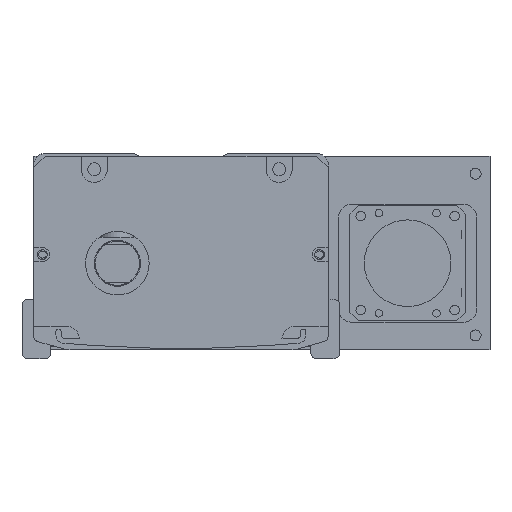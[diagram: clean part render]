
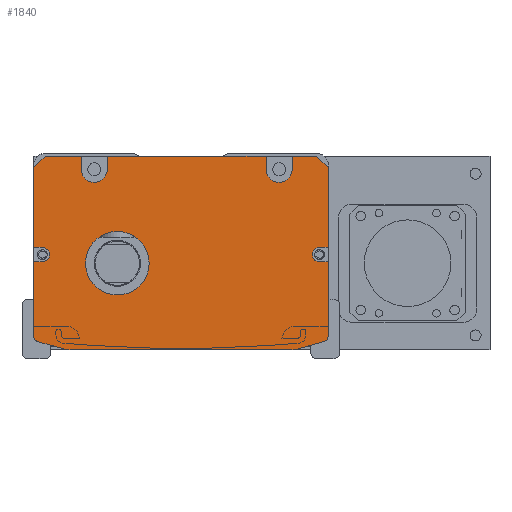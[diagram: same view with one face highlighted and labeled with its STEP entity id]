
A CAD part, front view. The second image highlights one B-rep face of the part: STEP entity #1840.
In plain terms, the highlighted planar face has unit normal (0, -1, 0).
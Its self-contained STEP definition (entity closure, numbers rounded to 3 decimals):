
#1840=ADVANCED_FACE('',(#4408,#4409),#2389,.F.);
#2389=PLANE('',#13989);
#2926=LINE('',#26900,#3723);
#2930=LINE('',#26909,#3727);
#2938=LINE('',#26936,#3735);
#2942=LINE('',#26945,#3739);
#2949=LINE('',#26961,#3746);
#2951=LINE('',#26966,#3748);
#2966=LINE('',#27009,#3763);
#2968=LINE('',#27017,#3765);
#2971=LINE('',#27021,#3768);
#2992=LINE('',#27089,#3789);
#2996=LINE('',#27098,#3793);
#3000=LINE('',#27107,#3797);
#3004=LINE('',#27116,#3801);
#3008=LINE('',#27132,#3805);
#3012=LINE('',#27138,#3809);
#3013=LINE('',#27139,#3810);
#3015=LINE('',#27155,#3812);
#3016=LINE('',#27156,#3813);
#3017=LINE('',#27157,#3814);
#3018=LINE('',#27158,#3815);
#3723=VECTOR('',#16511,1.);
#3727=VECTOR('',#16517,1.);
#3735=VECTOR('',#16539,1.);
#3739=VECTOR('',#16545,1.);
#3746=VECTOR('',#16554,1.);
#3748=VECTOR('',#16558,1.);
#3763=VECTOR('',#16597,1.);
#3765=VECTOR('',#16607,1.);
#3768=VECTOR('',#16612,1.);
#3789=VECTOR('',#16687,1.);
#3793=VECTOR('',#16693,1.);
#3797=VECTOR('',#16699,1.);
#3801=VECTOR('',#16705,1.);
#3805=VECTOR('',#16723,1.);
#3809=VECTOR('',#16727,1.);
#3810=VECTOR('',#16728,1.);
#3812=VECTOR('',#16752,1.);
#3813=VECTOR('',#16753,1.);
#3814=VECTOR('',#16754,1.);
#3815=VECTOR('',#16755,1.);
#4408=FACE_BOUND('',#5302,.T.);
#4409=FACE_BOUND('',#5303,.T.);
#5302=EDGE_LOOP('',(#7783,#7784,#7785,#7786,#7787,#7788,#7789,#7790,#7791,
#7792,#7793,#7794,#7795,#7796,#7797,#7798,#7799,#7800,#7801,#7802,#7803,
#7804,#7805,#7806,#7807,#7808,#7809,#7810));
#5303=EDGE_LOOP('',(#7811));
#7783=ORIENTED_EDGE('',*,*,#11792,.T.);
#7784=ORIENTED_EDGE('',*,*,#11669,.T.);
#7785=ORIENTED_EDGE('',*,*,#11779,.T.);
#7786=ORIENTED_EDGE('',*,*,#11696,.F.);
#7787=ORIENTED_EDGE('',*,*,#11733,.T.);
#7788=ORIENTED_EDGE('',*,*,#11698,.F.);
#7789=ORIENTED_EDGE('',*,*,#11784,.T.);
#7790=ORIENTED_EDGE('',*,*,#11685,.F.);
#7791=ORIENTED_EDGE('',*,*,#11730,.T.);
#7792=ORIENTED_EDGE('',*,*,#11689,.F.);
#7793=ORIENTED_EDGE('',*,*,#11783,.T.);
#7794=ORIENTED_EDGE('',*,*,#11673,.T.);
#7795=ORIENTED_EDGE('',*,*,#11793,.T.);
#7796=ORIENTED_EDGE('',*,*,#11763,.T.);
#7797=ORIENTED_EDGE('',*,*,#11791,.T.);
#7798=ORIENTED_EDGE('',*,*,#11759,.T.);
#7799=ORIENTED_EDGE('',*,*,#11794,.T.);
#7800=ORIENTED_EDGE('',*,*,#11716,.T.);
#7801=ORIENTED_EDGE('',*,*,#11719,.T.);
#7802=ORIENTED_EDGE('',*,*,#11722,.T.);
#7803=ORIENTED_EDGE('',*,*,#11723,.T.);
#7804=ORIENTED_EDGE('',*,*,#11679,.T.);
#7805=ORIENTED_EDGE('',*,*,#11726,.T.);
#7806=ORIENTED_EDGE('',*,*,#11681,.T.);
#7807=ORIENTED_EDGE('',*,*,#11795,.T.);
#7808=ORIENTED_EDGE('',*,*,#11771,.T.);
#7809=ORIENTED_EDGE('',*,*,#11790,.T.);
#7810=ORIENTED_EDGE('',*,*,#11767,.T.);
#7811=ORIENTED_EDGE('',*,*,#11735,.T.);
#10121=VERTEX_POINT('',#26901);
#10122=VERTEX_POINT('',#26902);
#10125=VERTEX_POINT('',#26910);
#10126=VERTEX_POINT('',#26911);
#10131=VERTEX_POINT('',#26922);
#10132=VERTEX_POINT('',#26924);
#10133=VERTEX_POINT('',#26928);
#10134=VERTEX_POINT('',#26929);
#10137=VERTEX_POINT('',#26937);
#10138=VERTEX_POINT('',#26938);
#10141=VERTEX_POINT('',#26946);
#10142=VERTEX_POINT('',#26947);
#10146=VERTEX_POINT('',#26956);
#10148=VERTEX_POINT('',#26960);
#10149=VERTEX_POINT('',#26964);
#10151=VERTEX_POINT('',#26967);
#10161=VERTEX_POINT('',#26997);
#10164=VERTEX_POINT('',#27002);
#10166=VERTEX_POINT('',#27008);
#10168=VERTEX_POINT('',#27014);
#10171=VERTEX_POINT('',#27040);
#10187=VERTEX_POINT('',#27087);
#10189=VERTEX_POINT('',#27090);
#10192=VERTEX_POINT('',#27097);
#10193=VERTEX_POINT('',#27099);
#10195=VERTEX_POINT('',#27105);
#10197=VERTEX_POINT('',#27108);
#10200=VERTEX_POINT('',#27115);
#10201=VERTEX_POINT('',#27117);
#11669=EDGE_CURVE('',#10121,#10122,#2926,.T.);
#11673=EDGE_CURVE('',#10125,#10126,#2930,.T.);
#11679=EDGE_CURVE('',#10132,#10131,#12852,.T.);
#11681=EDGE_CURVE('',#10133,#10134,#12853,.T.);
#11685=EDGE_CURVE('',#10137,#10138,#2938,.T.);
#11689=EDGE_CURVE('',#10141,#10142,#2942,.T.);
#11696=EDGE_CURVE('',#10148,#10146,#2949,.T.);
#11698=EDGE_CURVE('',#10149,#10151,#2951,.T.);
#11716=EDGE_CURVE('',#10161,#10164,#12860,.T.);
#11719=EDGE_CURVE('',#10164,#10166,#2966,.T.);
#11722=EDGE_CURVE('',#10166,#10168,#12862,.T.);
#11723=EDGE_CURVE('',#10168,#10132,#2968,.T.);
#11726=EDGE_CURVE('',#10131,#10133,#2971,.T.);
#11730=EDGE_CURVE('',#10137,#10142,#12865,.T.);
#11733=EDGE_CURVE('',#10148,#10151,#12868,.T.);
#11735=EDGE_CURVE('',#10171,#10171,#12869,.T.);
#11759=EDGE_CURVE('',#10189,#10187,#2992,.T.);
#11763=EDGE_CURVE('',#10193,#10192,#2996,.T.);
#11767=EDGE_CURVE('',#10197,#10195,#3000,.T.);
#11771=EDGE_CURVE('',#10201,#10200,#3004,.T.);
#11779=EDGE_CURVE('',#10122,#10146,#3008,.T.);
#11783=EDGE_CURVE('',#10141,#10125,#3012,.T.);
#11784=EDGE_CURVE('',#10149,#10138,#3013,.T.);
#11790=EDGE_CURVE('',#10200,#10197,#12883,.T.);
#11791=EDGE_CURVE('',#10192,#10189,#12884,.T.);
#11792=EDGE_CURVE('',#10195,#10121,#3015,.T.);
#11793=EDGE_CURVE('',#10126,#10193,#3016,.T.);
#11794=EDGE_CURVE('',#10187,#10161,#3017,.T.);
#11795=EDGE_CURVE('',#10134,#10201,#3018,.T.);
#12852=CIRCLE('',#13916,10.);
#12853=CIRCLE('',#13918,2.);
#12860=CIRCLE('',#13934,2.);
#12862=CIRCLE('',#13938,10.);
#12865=CIRCLE('',#13946,4.5);
#12868=CIRCLE('',#13951,4.5);
#12869=CIRCLE('',#13954,11.);
#12883=CIRCLE('',#13985,2.5);
#12884=CIRCLE('',#13987,2.5);
#13916=AXIS2_PLACEMENT_3D('',#26923,#16526,#16527);
#13918=AXIS2_PLACEMENT_3D('',#26927,#16531,#16532);
#13934=AXIS2_PLACEMENT_3D('',#27003,#16591,#16592);
#13938=AXIS2_PLACEMENT_3D('',#27015,#16603,#16604);
#13946=AXIS2_PLACEMENT_3D('',#27029,#16624,#16625);
#13951=AXIS2_PLACEMENT_3D('',#27035,#16634,#16635);
#13954=AXIS2_PLACEMENT_3D('',#27039,#16641,#16642);
#13985=AXIS2_PLACEMENT_3D('',#27151,#16744,#16745);
#13987=AXIS2_PLACEMENT_3D('',#27153,#16748,#16749);
#13989=AXIS2_PLACEMENT_3D('',#27159,#16756,#16757);
#16511=DIRECTION('',(-0.707,0.,0.707));
#16517=DIRECTION('',(-0.707,0.,-0.707));
#16526=DIRECTION('',(0.,-1.,0.));
#16527=DIRECTION('',(0.,0.,-1.));
#16531=DIRECTION('',(0.,-1.,0.));
#16532=DIRECTION('',(0.,0.,-1.));
#16539=DIRECTION('',(0.,0.,1.));
#16545=DIRECTION('',(0.,0.,-1.));
#16554=DIRECTION('',(0.,0.,1.));
#16558=DIRECTION('',(0.,0.,-1.));
#16591=DIRECTION('',(0.,-1.,0.));
#16592=DIRECTION('',(0.,0.,1.));
#16597=DIRECTION('',(0.963,0.,-0.269));
#16603=DIRECTION('',(0.,-1.,0.));
#16604=DIRECTION('',(0.,0.,1.));
#16607=DIRECTION('',(1.,0.,0.));
#16612=DIRECTION('',(0.963,0.,0.269));
#16624=DIRECTION('',(0.,1.,0.));
#16625=DIRECTION('',(0.,0.,1.));
#16634=DIRECTION('',(0.,1.,0.));
#16635=DIRECTION('',(0.,0.,1.));
#16641=DIRECTION('',(0.,1.,0.));
#16642=DIRECTION('',(0.,0.,1.));
#16687=DIRECTION('',(-1.,0.,0.));
#16693=DIRECTION('',(1.,0.,0.));
#16699=DIRECTION('',(1.,0.,0.));
#16705=DIRECTION('',(-1.,0.,0.));
#16723=DIRECTION('',(-1.,0.,0.));
#16727=DIRECTION('',(-1.,0.,0.));
#16728=DIRECTION('',(-1.,0.,0.));
#16744=DIRECTION('',(0.,1.,0.));
#16745=DIRECTION('',(0.,0.,1.));
#16748=DIRECTION('',(0.,1.,0.));
#16749=DIRECTION('',(0.,0.,1.));
#16752=DIRECTION('',(0.,0.,1.));
#16753=DIRECTION('',(0.,0.,-1.));
#16754=DIRECTION('',(0.,0.,-1.));
#16755=DIRECTION('',(0.,0.,1.));
#16756=DIRECTION('',(0.,1.,0.));
#16757=DIRECTION('',(-1.,0.,0.));
#26900=CARTESIAN_POINT('',(43.808,-417.5,-1.));
#26901=CARTESIAN_POINT('',(47.808,-417.5,-5.));
#26902=CARTESIAN_POINT('',(43.808,-417.5,-1.));
#26909=CARTESIAN_POINT('',(-54.192,-417.5,-5.));
#26910=CARTESIAN_POINT('',(-50.192,-417.5,-1.));
#26911=CARTESIAN_POINT('',(-54.192,-417.5,-5.));
#26922=CARTESIAN_POINT('',(37.424,-417.5,-67.631));
#26923=CARTESIAN_POINT('',(34.733,-417.5,-58.));
#26924=CARTESIAN_POINT('',(34.733,-417.5,-68.));
#26927=CARTESIAN_POINT('',(45.808,-417.5,-63.212));
#26928=CARTESIAN_POINT('',(46.346,-417.5,-65.138));
#26929=CARTESIAN_POINT('',(47.808,-417.5,-63.212));
#26936=CARTESIAN_POINT('',(-28.692,-417.5,-3.5));
#26937=CARTESIAN_POINT('',(-28.692,-417.5,-5.5));
#26938=CARTESIAN_POINT('',(-28.692,-417.5,-1.));
#26945=CARTESIAN_POINT('',(-37.692,-417.5,-1.));
#26946=CARTESIAN_POINT('',(-37.692,-417.5,-1.));
#26947=CARTESIAN_POINT('',(-37.692,-417.5,-5.5));
#26956=CARTESIAN_POINT('',(35.308,-417.5,-1.));
#26960=CARTESIAN_POINT('',(35.308,-417.5,-5.5));
#26961=CARTESIAN_POINT('',(35.308,-417.5,-1.));
#26964=CARTESIAN_POINT('',(26.308,-417.5,-1.));
#26966=CARTESIAN_POINT('',(26.308,-417.5,-1.));
#26967=CARTESIAN_POINT('',(26.308,-417.5,-5.5));
#26997=CARTESIAN_POINT('',(-54.192,-417.5,-63.212));
#27002=CARTESIAN_POINT('',(-52.731,-417.5,-65.138));
#27003=CARTESIAN_POINT('',(-52.192,-417.5,-63.212));
#27008=CARTESIAN_POINT('',(-43.809,-417.5,-67.631));
#27009=CARTESIAN_POINT('',(-55.807,-417.5,-64.279));
#27014=CARTESIAN_POINT('',(-41.118,-417.5,-68.));
#27015=CARTESIAN_POINT('',(-41.118,-417.5,-58.));
#27017=CARTESIAN_POINT('',(-54.692,-417.5,-68.));
#27021=CARTESIAN_POINT('',(49.422,-417.5,-64.279));
#27029=CARTESIAN_POINT('',(-33.192,-417.5,-5.5));
#27035=CARTESIAN_POINT('',(30.808,-417.5,-5.5));
#27039=CARTESIAN_POINT('',(-25.192,-417.5,-38.));
#27040=CARTESIAN_POINT('',(-25.192,-417.5,-27.));
#27087=CARTESIAN_POINT('',(-54.192,-417.5,-37.5));
#27089=CARTESIAN_POINT('',(-3.192,-417.5,-37.5));
#27090=CARTESIAN_POINT('',(-51.192,-417.5,-37.5));
#27097=CARTESIAN_POINT('',(-51.192,-417.5,-32.5));
#27098=CARTESIAN_POINT('',(-3.192,-417.5,-32.5));
#27099=CARTESIAN_POINT('',(-54.192,-417.5,-32.5));
#27105=CARTESIAN_POINT('',(47.808,-417.5,-32.5));
#27107=CARTESIAN_POINT('',(-3.192,-417.5,-32.5));
#27108=CARTESIAN_POINT('',(44.808,-417.5,-32.5));
#27115=CARTESIAN_POINT('',(44.808,-417.5,-37.5));
#27116=CARTESIAN_POINT('',(-3.192,-417.5,-37.5));
#27117=CARTESIAN_POINT('',(47.808,-417.5,-37.5));
#27132=CARTESIAN_POINT('',(-3.192,-417.5,-1.));
#27138=CARTESIAN_POINT('',(-54.192,-417.5,-1.));
#27139=CARTESIAN_POINT('',(-54.192,-417.5,-1.));
#27151=CARTESIAN_POINT('',(44.808,-417.5,-35.));
#27153=CARTESIAN_POINT('',(-51.192,-417.5,-35.));
#27155=CARTESIAN_POINT('',(47.808,-417.5,-1.));
#27156=CARTESIAN_POINT('',(-54.192,-417.5,-62.));
#27157=CARTESIAN_POINT('',(-54.192,-417.5,-62.));
#27158=CARTESIAN_POINT('',(47.808,-417.5,-1.));
#27159=CARTESIAN_POINT('',(-3.192,-417.5,-1.));
